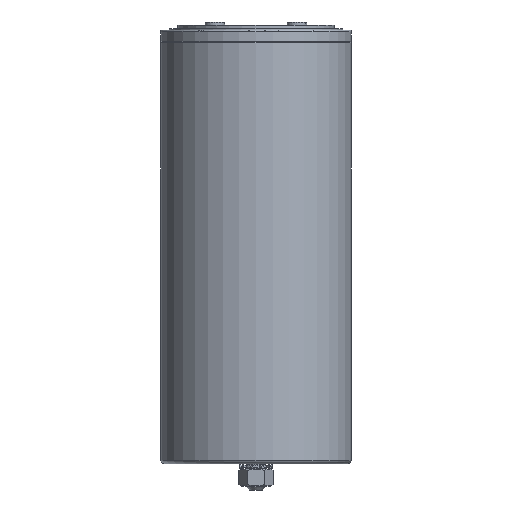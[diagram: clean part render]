
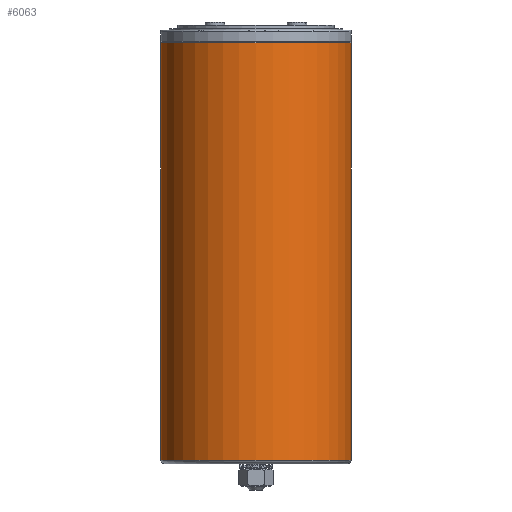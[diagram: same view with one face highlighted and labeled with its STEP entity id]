
A CAD part, front view. The second image highlights one B-rep face of the part: STEP entity #6063.
In plain terms, the highlighted cylindrical face has radius 58 mm (diameter 116 mm), a partial arc.
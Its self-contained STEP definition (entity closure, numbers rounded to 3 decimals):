
#28 = VECTOR ( 'NONE', #234, 1000. ) ;
#234 = DIRECTION ( 'NONE',  ( 0., 0., -1. ) ) ;
#395 = DIRECTION ( 'NONE',  ( -1., 0., 0. ) ) ;
#654 = LINE ( 'NONE', #890, #28 ) ;
#890 = CARTESIAN_POINT ( 'NONE',  ( -73.5, 0., 151.967 ) ) ;
#1122 = AXIS2_PLACEMENT_3D ( 'NONE', #3856, #3808, #395 ) ;
#1135 = FACE_OUTER_BOUND ( 'NONE', #2292, .T. ) ;
#1229 = EDGE_CURVE ( 'NONE', #6870, #4889, #3987, .T. ) ;
#1300 = DIRECTION ( 'NONE',  ( 0., 0., -1. ) ) ;
#1466 = EDGE_CURVE ( 'NONE', #4889, #3962, #654, .T. ) ;
#1574 = VERTEX_POINT ( 'NONE', #1594 ) ;
#1594 = CARTESIAN_POINT ( 'NONE',  ( 42.5, 0., -18.854 ) ) ;
#1687 = CARTESIAN_POINT ( 'NONE',  ( 42.5, 0., 235.217 ) ) ;
#1986 = CYLINDRICAL_SURFACE ( 'NONE', #3820, 58. ) ;
#2079 = ORIENTED_EDGE ( 'NONE', *, *, #5060, .F. ) ;
#2264 = CARTESIAN_POINT ( 'NONE',  ( -15.5, 0., 151.967 ) ) ;
#2292 = EDGE_LOOP ( 'NONE', ( #2079, #8294, #6005, #6807 ) ) ;
#2353 = DIRECTION ( 'NONE',  ( 0., 0., -1. ) ) ;
#2588 = LINE ( 'NONE', #7535, #7792 ) ;
#3715 = CARTESIAN_POINT ( 'NONE',  ( -15.5, 0., -18.854 ) ) ;
#3738 = AXIS2_PLACEMENT_3D ( 'NONE', #3715, #4258, #8334 ) ;
#3808 = DIRECTION ( 'NONE',  ( 0., 0., -1. ) ) ;
#3820 = AXIS2_PLACEMENT_3D ( 'NONE', #2264, #2353, #4428 ) ;
#3856 = CARTESIAN_POINT ( 'NONE',  ( -15.5, 0., 235.217 ) ) ;
#3962 = VERTEX_POINT ( 'NONE', #5011 ) ;
#3987 = CIRCLE ( 'NONE', #1122, 58. ) ;
#4258 = DIRECTION ( 'NONE',  ( 0., 0., -1. ) ) ;
#4428 = DIRECTION ( 'NONE',  ( -1., 0., 0. ) ) ;
#4889 = VERTEX_POINT ( 'NONE', #8609 ) ;
#5011 = CARTESIAN_POINT ( 'NONE',  ( -73.5, 0., -18.854 ) ) ;
#5060 = EDGE_CURVE ( 'NONE', #6870, #1574, #2588, .T. ) ;
#5727 = EDGE_CURVE ( 'NONE', #1574, #3962, #6517, .T. ) ;
#6005 = ORIENTED_EDGE ( 'NONE', *, *, #1466, .T. ) ;
#6063 = ADVANCED_FACE ( 'NONE', ( #1135 ), #1986, .T. ) ;
#6517 = CIRCLE ( 'NONE', #3738, 58. ) ;
#6807 = ORIENTED_EDGE ( 'NONE', *, *, #5727, .F. ) ;
#6870 = VERTEX_POINT ( 'NONE', #1687 ) ;
#7535 = CARTESIAN_POINT ( 'NONE',  ( 42.5, 0., 151.967 ) ) ;
#7792 = VECTOR ( 'NONE', #1300, 1000. ) ;
#8294 = ORIENTED_EDGE ( 'NONE', *, *, #1229, .T. ) ;
#8334 = DIRECTION ( 'NONE',  ( -1., 0., 0. ) ) ;
#8609 = CARTESIAN_POINT ( 'NONE',  ( -73.5, 0., 235.217 ) ) ;
